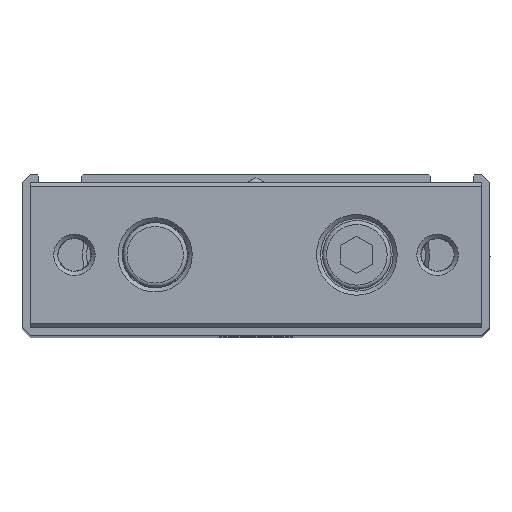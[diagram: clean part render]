
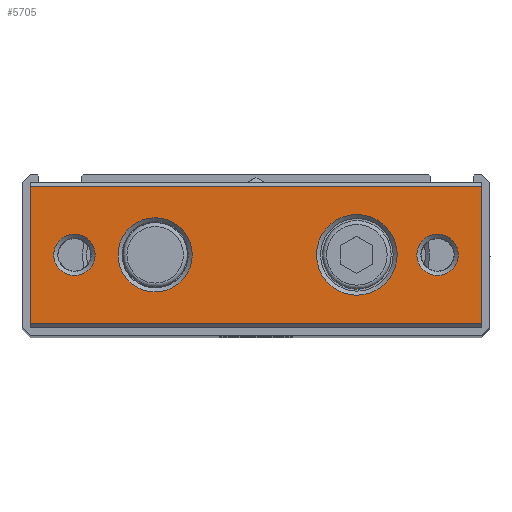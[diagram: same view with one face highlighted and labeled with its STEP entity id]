
A CAD part, top view. The second image highlights one B-rep face of the part: STEP entity #5705.
In plain terms, the highlighted planar face has unit normal (0, 0, 1).
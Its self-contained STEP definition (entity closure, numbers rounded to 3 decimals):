
#3656=CARTESIAN_POINT('',(-28.,-8.5,144.0));
#3657=VERTEX_POINT('',#3656);
#3664=CARTESIAN_POINT('',(-28.,8.5,144.0));
#3665=VERTEX_POINT('',#3664);
#3666=CARTESIAN_POINT('',(-28.,8.5,144.0));
#3667=DIRECTION('',(0.0,-1.0,0.0));
#3668=VECTOR('',#3667,17.0);
#3669=LINE('',#3666,#3668);
#3670=EDGE_CURVE('',#3665,#3657,#3669,.T.);
#3856=CARTESIAN_POINT('',(28.,-8.5,144.0));
#3857=VERTEX_POINT('',#3856);
#3864=CARTESIAN_POINT('',(28.,-8.5,144.0));
#3865=DIRECTION('',(-1.0,0.0,0.0));
#3866=VECTOR('',#3865,56.);
#3867=LINE('',#3864,#3866);
#3868=EDGE_CURVE('',#3857,#3657,#3867,.T.);
#3935=CARTESIAN_POINT('',(28.,8.5,144.0));
#3936=VERTEX_POINT('',#3935);
#3943=CARTESIAN_POINT('',(28.,-8.5,144.0));
#3944=DIRECTION('',(0.0,1.0,0.0));
#3945=VECTOR('',#3944,17.0);
#3946=LINE('',#3943,#3945);
#3947=EDGE_CURVE('',#3857,#3936,#3946,.T.);
#5641=CARTESIAN_POINT('',(17.5,0.,144.0));
#5642=VERTEX_POINT('',#5641);
#5643=CARTESIAN_POINT('',(12.5,0.,144.0));
#5644=DIRECTION('',(0.0,0.0,1.0));
#5645=DIRECTION('',(-1.0,0.0,0.0));
#5646=AXIS2_PLACEMENT_3D('',#5643,#5644,#5645);
#5647=CIRCLE('',#5646,5.0);
#5648=EDGE_CURVE('',#5642,#5642,#5647,.T.);
#5653=CARTESIAN_POINT('',(0.0,-9.,144.0));
#5654=DIRECTION('',(0.0,0.0,1.0));
#5655=DIRECTION('',(1.0,0.0,0.0));
#5656=AXIS2_PLACEMENT_3D('',#5653,#5654,#5655);
#5657=PLANE('',#5656);
#5658=ORIENTED_EDGE('',*,*,#3868,.F.);
#5659=ORIENTED_EDGE('',*,*,#3947,.T.);
#5660=CARTESIAN_POINT('',(-28.,8.5,144.0));
#5661=DIRECTION('',(1.0,0.0,0.0));
#5662=VECTOR('',#5661,56.);
#5663=LINE('',#5660,#5662);
#5664=EDGE_CURVE('',#3665,#3936,#5663,.T.);
#5665=ORIENTED_EDGE('',*,*,#5664,.F.);
#5666=ORIENTED_EDGE('',*,*,#3670,.T.);
#5667=EDGE_LOOP('',(#5658,#5659,#5665,#5666));
#5668=FACE_OUTER_BOUND('',#5667,.T.);
#5669=CARTESIAN_POINT('',(-7.9,0.,144.0));
#5670=VERTEX_POINT('',#5669);
#5671=CARTESIAN_POINT('',(-12.5,0.,144.0));
#5672=DIRECTION('',(0.0,0.0,1.0));
#5673=DIRECTION('',(-1.0,0.0,0.0));
#5674=AXIS2_PLACEMENT_3D('',#5671,#5672,#5673);
#5675=CIRCLE('',#5674,4.6);
#5676=EDGE_CURVE('',#5670,#5670,#5675,.T.);
#5677=ORIENTED_EDGE('',*,*,#5676,.F.);
#5678=EDGE_LOOP('',(#5677));
#5679=FACE_BOUND('',#5678,.T.);
#5680=CARTESIAN_POINT('',(-19.933,0.,144.0));
#5681=VERTEX_POINT('',#5680);
#5682=CARTESIAN_POINT('',(-22.5,0.,144.0));
#5683=DIRECTION('',(0.0,0.0,1.0));
#5684=DIRECTION('',(-1.0,0.0,0.0));
#5685=AXIS2_PLACEMENT_3D('',#5682,#5683,#5684);
#5686=CIRCLE('',#5685,2.567);
#5687=EDGE_CURVE('',#5681,#5681,#5686,.T.);
#5688=ORIENTED_EDGE('',*,*,#5687,.F.);
#5689=EDGE_LOOP('',(#5688));
#5690=FACE_BOUND('',#5689,.T.);
#5691=CARTESIAN_POINT('',(25.067,0.,144.0));
#5692=VERTEX_POINT('',#5691);
#5693=CARTESIAN_POINT('',(22.5,0.,144.0));
#5694=DIRECTION('',(0.0,0.0,1.0));
#5695=DIRECTION('',(-1.0,0.0,0.0));
#5696=AXIS2_PLACEMENT_3D('',#5693,#5694,#5695);
#5697=CIRCLE('',#5696,2.567);
#5698=EDGE_CURVE('',#5692,#5692,#5697,.T.);
#5699=ORIENTED_EDGE('',*,*,#5698,.F.);
#5700=EDGE_LOOP('',(#5699));
#5701=FACE_BOUND('',#5700,.T.);
#5702=ORIENTED_EDGE('',*,*,#5648,.F.);
#5703=EDGE_LOOP('',(#5702));
#5704=FACE_BOUND('',#5703,.T.);
#5705=ADVANCED_FACE('',(#5668,#5679,#5690,#5701,#5704),#5657,.T.);
